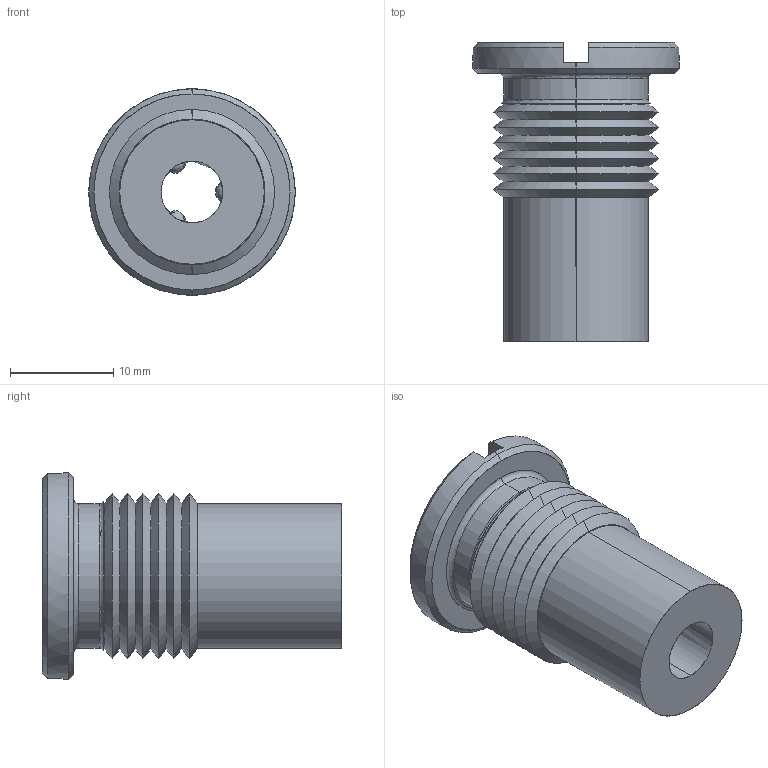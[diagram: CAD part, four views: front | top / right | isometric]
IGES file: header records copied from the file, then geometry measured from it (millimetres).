
Start section: SolidWorks IGES file using analytic representation for surfaces
Global section: file name: C:\Users\IanO\Desktop\33936_v2\33936_v2_20160524_IGES\Default.igs; native system: SolidWorks 2019; preprocessor: SolidWorks 2019; author: IanO; date: 211220.164226; units: millimetre
Bounding box: 20 x 29 x 20 mm (x, y, z)
Surface area: 2797.4 mm2 (no closed solid volume)
Topology: 0 solids, 0 shells, 60 faces, 682 edges, 682 vertices
Faces by surface type: revolution 45, bspline 15
